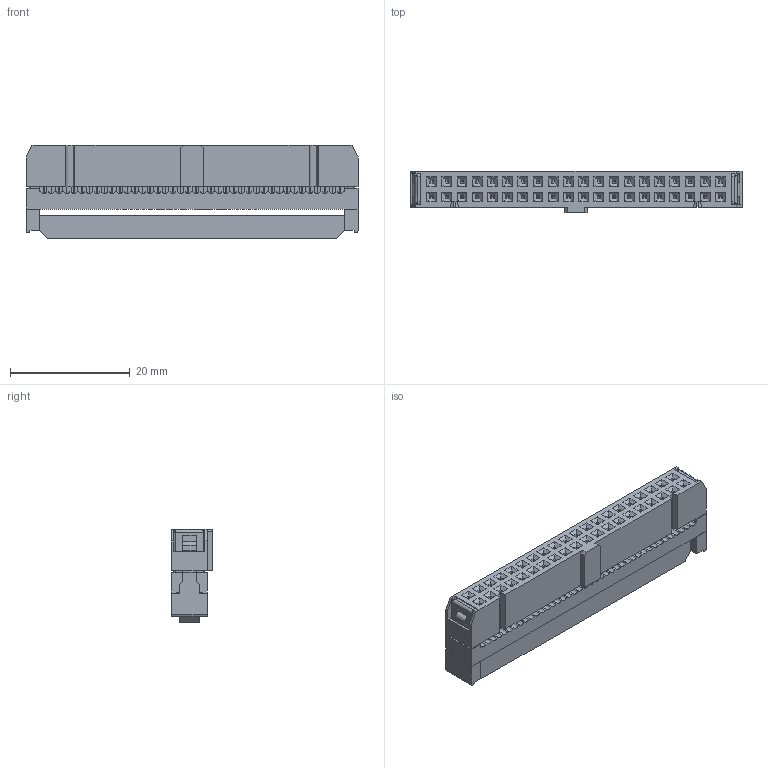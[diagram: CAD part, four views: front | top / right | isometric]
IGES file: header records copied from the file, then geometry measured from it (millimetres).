
Global section: file name: Filename.iges; native system: Open CASCADE 7.3; preprocessor: Open CASCADE IGES processor 7.3; date: 20201209.080523; units: millimetre
Bounding box: 55.48 x 6.86 x 15.7 mm (x, y, z)
Surface area: 6867.3 mm2 (no closed solid volume)
Topology: 0 solids, 0 shells, 2297 faces, 12666 edges, 12654 vertices
Faces by surface type: plane 1755, revolution 530, extrusion 8, bspline 4
